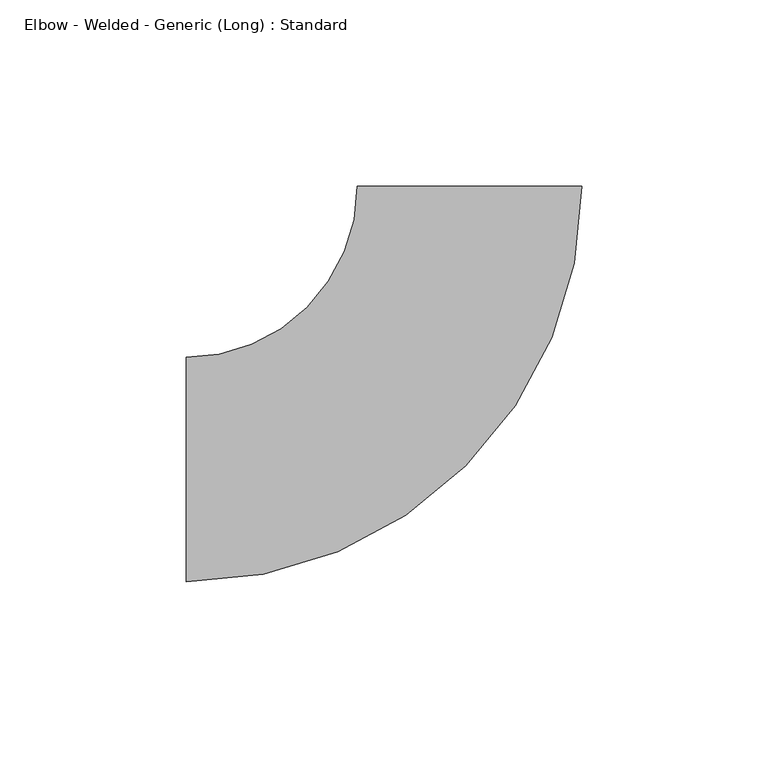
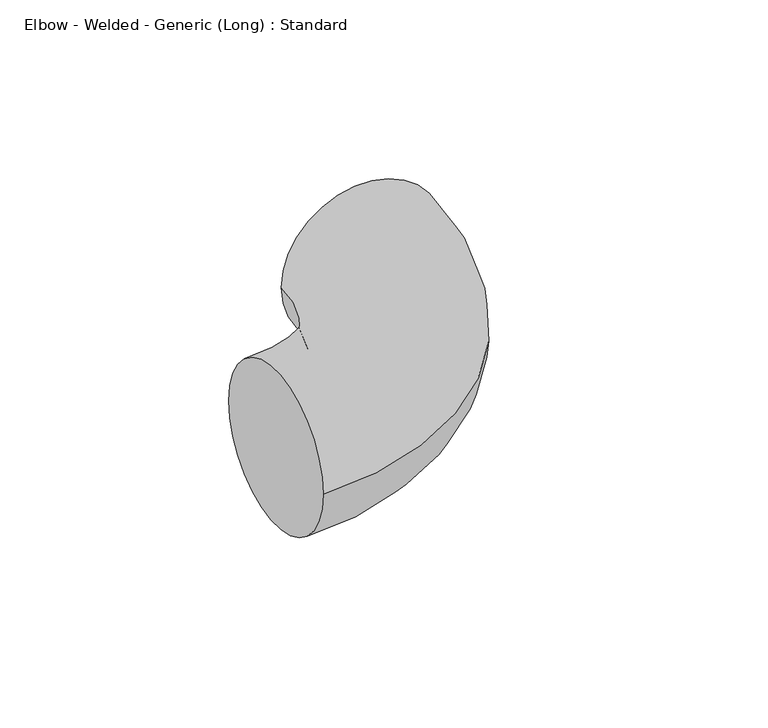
"""IFC4 building model written with IfcOpenShell, lengths in millimetres: pipe fitting geometry, Elbow - Welded - Generic (Long) : Standard."""

from ifc_helpers import new_model, si_unit, point, frame, origin, place, context, project, spatial, circle_curve, ellipse_curve, trimmed, source, transform, mapped, element, save
from ifc_brep_helpers import plane_surface, revolved_surface, advanced_brep


def elbow_welded_generic_long_standard_02cc2dec(model_context):
    return source(origin(), model_context, "Body", "AdvancedBrep", [
        advanced_brep(
        [(-76.2, -30.1625, 0.0), (-76.2, 30.1625, 0.0), (30.1519671, 76.2041684, 0.0), (-30.1730323, 76.1958301, 0.0)],
        [
            (0, 1, circle_curve(frame((-76.2, 0.0, 0.0), z_axis=(-1.0, 0.0, 0.0), x_axis=(0.0, 1.0, 0.0)), 30.1625)),
            (1, 0, circle_curve(frame((-76.2, 0.0, 0.0), z_axis=(-1.0, 0.0, 0.0), x_axis=(0.0, 1.0, 0.0)), 30.1625)),
            (2, 3, circle_curve(frame((-0.0105326, 76.1999993, 0.0), z_axis=(-0.00013822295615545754, 0.9999999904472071, 0.0), x_axis=(-0.9999999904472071, -0.00013822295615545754, 0.0)), 30.1625)),
            (3, 2, circle_curve(frame((-0.0105326, 76.1999993, 0.0), z_axis=(-0.00013822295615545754, 0.9999999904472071, 0.0), x_axis=(-0.9999999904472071, -0.00013822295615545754, 0.0)), 30.1625)),
            (3, 1, circle_curve(frame((-76.2, 76.1894681, 0.0), z_axis=(0.0, 0.0, -1.0), x_axis=(0.0, -1.0, 0.0)), 46.0269681)),
            (0, 2, circle_curve(frame((-76.2, 76.1894681, 0.0), z_axis=(0.0, 0.0, 1.0), x_axis=(0.0, -1.0, 0.0)), 106.3519681)),
        ],
        [
            plane_surface(frame((-76.2, 0.0, 0.0), z_axis=(-1.0, 0.0, 0.0), x_axis=(0.0, 0.0, 1.0))),
            plane_surface(frame((-0.0105326, 76.1999993, 0.0), z_axis=(-0.0001382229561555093, 0.9999999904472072, 0.0), x_axis=(0.0, 0.0, 1.0))),
            revolved_surface(trimmed(ellipse_curve(frame((-76.2, 0.0, 0.0), z_axis=(-1.0, 0.0, 0.0), x_axis=(0.0, 1.0, 0.0)), 30.1625, 30.1625), [point((-76.2, -30.1625, 0.0))], [point((-76.2, 30.1625, 0.0))], True, "CARTESIAN"), (-76.2, 76.1894681, 0.0), (0.0, 0.0, 1.0)),
            revolved_surface(trimmed(ellipse_curve(frame((-76.2, 0.0, 0.0), z_axis=(-1.0, 0.0, 0.0), x_axis=(0.0, 1.0, 0.0)), 30.1625, 30.1625), [point((-76.2, 30.1625, 0.0))], [point((-76.2, -30.1625, 0.0))], True, "CARTESIAN"), (-76.2, 76.1894681, 0.0), (0.0, 0.0, 1.0)),
        ],
        [
            (0, [[1, 2]]),
            (1, [[3, 4]]),
            (2, [[5, -1, 6, -4]]),
            (3, [[-6, -2, -5, -3]]),
        ],
    ),
    ])


if __name__ == "__main__":
    model = new_model("IFC4")
    model_context = context("Model", 3, world=origin())
    ifc_project = project(units=[si_unit("LENGTHUNIT", "METRE", prefix="MILLI")], contexts=[model_context])
    site = spatial("IfcSite", under=ifc_project)
    building = spatial("IfcBuilding", under=site)
    placement = place(None, origin())
    elbow_welded_generic_long_standard_shape = elbow_welded_generic_long_standard_02cc2dec(model_context)
    element("IfcPipeFitting", 1, ObjectType="Elbow - Welded - Generic (Long) : Standard", at=placement, inside=building, context=model_context, shape_type="MappedRepresentation", body=[
        mapped(elbow_welded_generic_long_standard_shape, transform((0.0, 0.0, 0.0), x_axis=(1.0, 0.0, 0.0), y_axis=(0.0, 1.0, 0.0), z_axis=(0.0, 0.0, 1.0))),
    ])
    save(model, "model.ifc")
